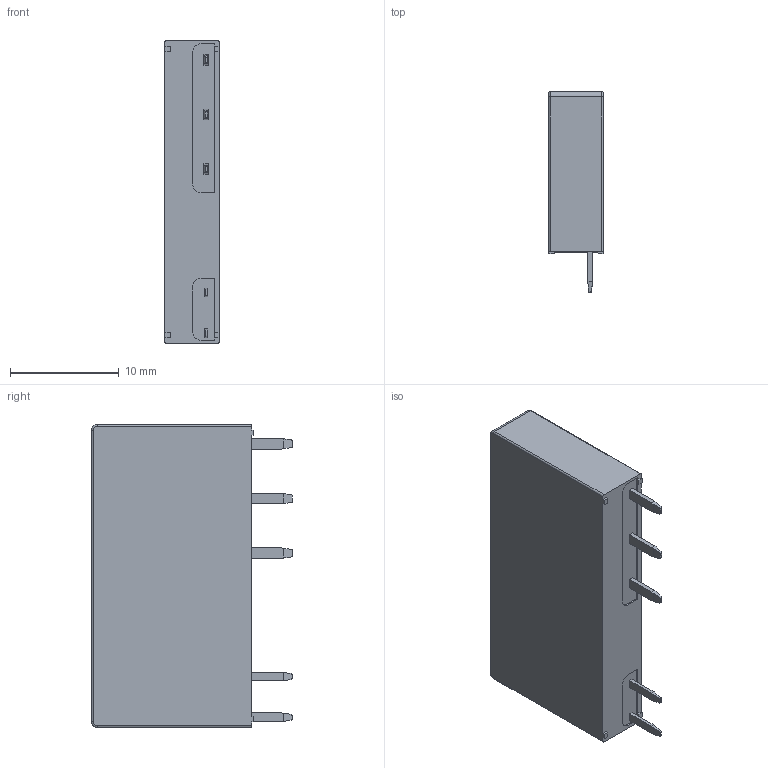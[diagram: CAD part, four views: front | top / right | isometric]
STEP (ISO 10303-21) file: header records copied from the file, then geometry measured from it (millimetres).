
FILE_DESCRIPTION (( 'STEP AP203' ), '1' );
FILE_NAME ('RNC1CO.STEP', '2023-05-13T02:10:21', ( '' ), ( '' ), 'SwSTEP 2.0', 'SolidWorks 2018', '' );
FILE_SCHEMA (( 'CONFIG_CONTROL_DESIGN' ));
Length unit declared in the file: millimetre
Products named in the file (1): RNC1CO
Bounding box: 5 x 18.5 x 27.9 mm (x, y, z)
Volume: 2056.9 mm3; surface area: 1293.9 mm2
Topology: 1 solids, 1 shells, 105 faces, 286 edges, 188 vertices
Faces by surface type: plane 75, cylinder 26, torus 4
Entity records: 3349 total; most frequent: CARTESIAN_POINT 640, ORIENTED_EDGE 572, DIRECTION 514, EDGE_CURVE 286, LINE 230, VECTOR 230, VERTEX_POINT 188, AXIS2_PLACEMENT_3D 142
